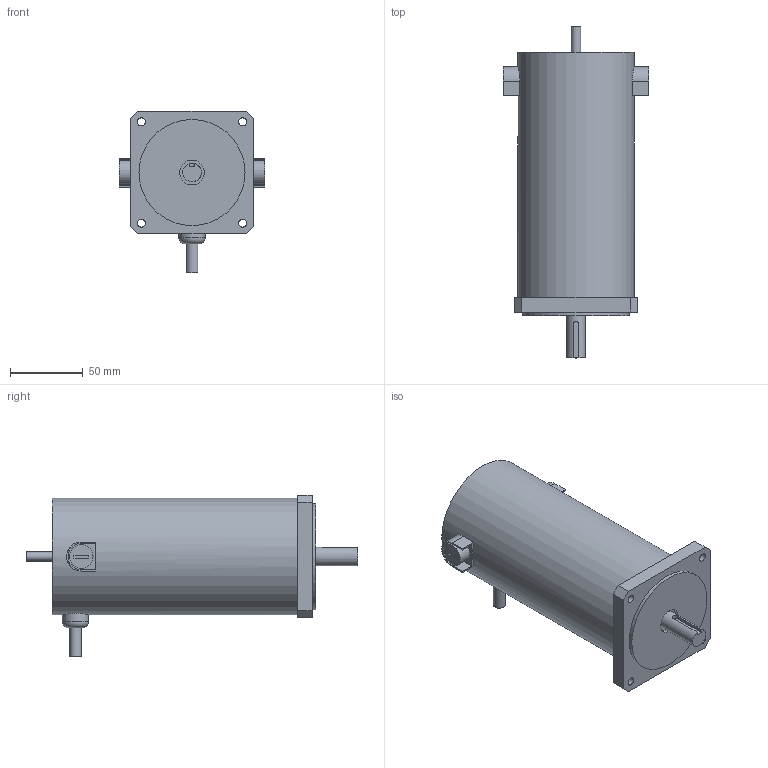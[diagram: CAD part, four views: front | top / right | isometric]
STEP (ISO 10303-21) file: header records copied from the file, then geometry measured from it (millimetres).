
FILE_DESCRIPTION(/* description */ (''),/* implementation_level */ '2;1');
FILE_NAME(/* name */ '80有刷.stp',/* time_stamp */ '2022-06-17T09:33:43+08:00',/* author */ (''),/* organization */ (''),/* preprocessor_version */ 'ST-DEVELOPER v15',/* originating_system */ 'SIEMENS PLM Software NX 10.0',/* authorisation */ '');
FILE_SCHEMA (('CONFIG_CONTROL_DESIGN'));
Length unit declared in the file: millimetre
Products named in the file (1): 80有刷
Bounding box: 100 x 228.3 x 111.25 mm (x, y, z)
Volume: 941118.1 mm3; surface area: 66989.8 mm2
Topology: 1 solids, 1 shells, 71 faces, 166 edges, 112 vertices
Faces by surface type: plane 49, cylinder 21, torus 1
Full cylindrical faces by diameter (mm): 3 x2, 5.54 x4, 6.3 x1, 8.247 x1, 12.7 x1, 15 x1, 16.25 x2, 17 x1, 18 x1, 73 x1, 80 x1
Entity records: 2028 total; most frequent: CARTESIAN_POINT 381, DIRECTION 321, ORIENTED_EDGE 280, EDGE_CURVE 140, AXIS2_PLACEMENT_3D 113, EDGE_LOOP 112, VERTEX_POINT 104, LINE 95
